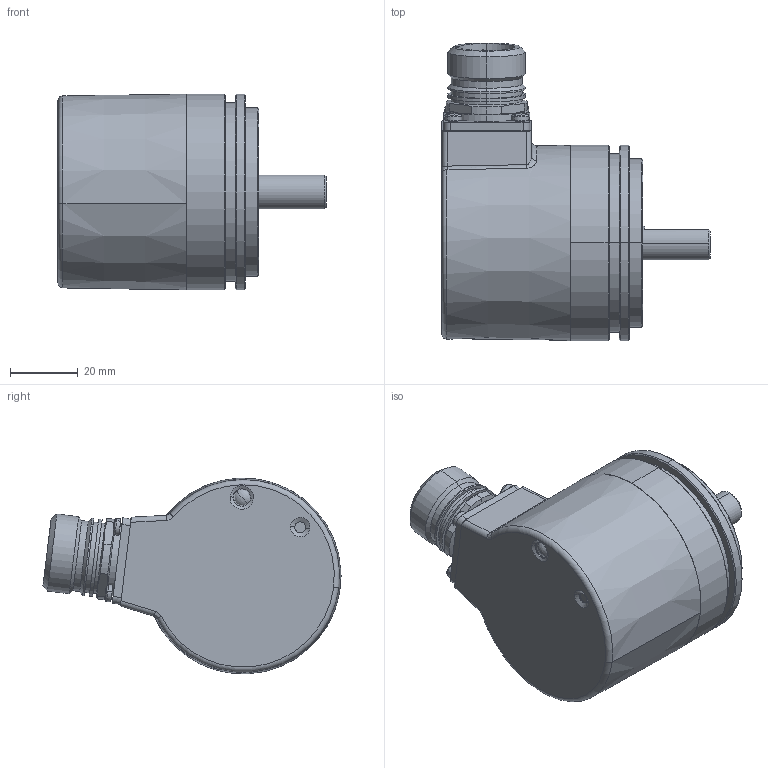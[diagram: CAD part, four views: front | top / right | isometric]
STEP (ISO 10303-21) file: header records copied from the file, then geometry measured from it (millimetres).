
FILE_DESCRIPTION (( 'STEP AP214' ), '1' );
FILE_NAME ('5863.22X4.XXXX.STEP', '2010-11-22T09:00:00', ( 'admin' ), ( 'Fritz Kübler GmbH' ), 'SwSTEP 2.0', 'SolidWorks 2009', '' );
FILE_SCHEMA (( 'AUTOMOTIVE_DESIGN' ));
Length unit declared in the file: millimetre
Products named in the file (1): 5863.22X4.XXXX
Bounding box: 79.6 x 88.28 x 58 mm (x, y, z)
Surface area: 24920 mm2 (no closed solid volume)
Topology: 0 solids, 32 shells, 320 faces, 835 edges, 534 vertices
Faces by surface type: cylinder 129, plane 92, cone 37, sphere 34, torus 22, bspline 6
Entity records: 14486 total; most frequent: CARTESIAN_POINT 2909, DIRECTION 1907, ORIENTED_EDGE 1466, EDGE_CURVE 811, AXIS2_PLACEMENT_3D 809, VERTEX_POINT 534, CIRCLE 494, EDGE_LOOP 369
